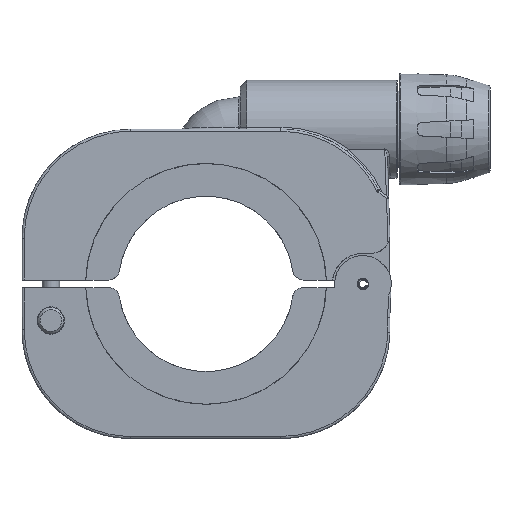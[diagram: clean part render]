
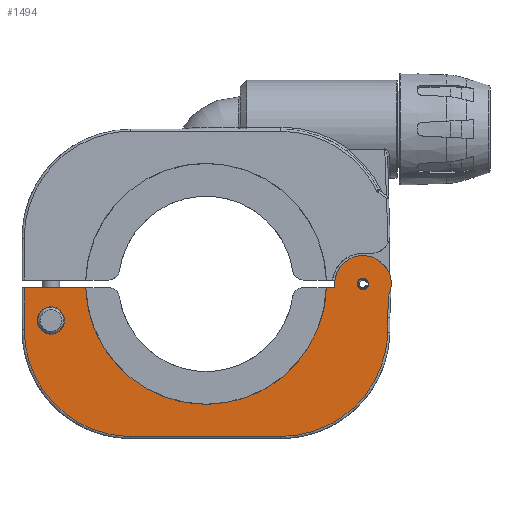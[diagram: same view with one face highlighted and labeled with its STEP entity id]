
A CAD part, left-side view. The second image highlights one B-rep face of the part: STEP entity #1494.
In plain terms, the highlighted planar face has unit normal (-1, 0, -0.018).
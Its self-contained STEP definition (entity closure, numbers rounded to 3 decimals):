
#1494 = ADVANCED_FACE( '', ( #3071, #3072, #3073 ), #3074, .T. );
#3071 = FACE_BOUND( '', #11637, .T. );
#3072 = FACE_OUTER_BOUND( '', #11638, .T. );
#3073 = FACE_BOUND( '', #11639, .T. );
#3074 = PLANE( '', #11640 );
#11637 = EDGE_LOOP( '', ( #16109 ) );
#11638 = EDGE_LOOP( '', ( #16110, #16111, #16112, #16113, #16114, #16115, #16116, #16117, #16118, #16119, #16120, #16121 ) );
#11639 = EDGE_LOOP( '', ( #16122 ) );
#11640 = AXIS2_PLACEMENT_3D( '', #16123, #16124, #16125 );
#16109 = ORIENTED_EDGE( '', *, *, #18188, .T. );
#16110 = ORIENTED_EDGE( '', *, *, #16817, .T. );
#16111 = ORIENTED_EDGE( '', *, *, #18132, .F. );
#16112 = ORIENTED_EDGE( '', *, *, #17888, .F. );
#16113 = ORIENTED_EDGE( '', *, *, #17370, .T. );
#16114 = ORIENTED_EDGE( '', *, *, #17057, .T. );
#16115 = ORIENTED_EDGE( '', *, *, #17646, .T. );
#16116 = ORIENTED_EDGE( '', *, *, #16868, .T. );
#16117 = ORIENTED_EDGE( '', *, *, #18218, .T. );
#16118 = ORIENTED_EDGE( '', *, *, #18112, .T. );
#16119 = ORIENTED_EDGE( '', *, *, #17694, .T. );
#16120 = ORIENTED_EDGE( '', *, *, #16552, .T. );
#16121 = ORIENTED_EDGE( '', *, *, #17428, .T. );
#16122 = ORIENTED_EDGE( '', *, *, #17368, .T. );
#16123 = CARTESIAN_POINT( '', ( -31.5, 0., 71. ) );
#16124 = DIRECTION( '', ( -1., 0., -0.017 ) );
#16125 = DIRECTION( '', ( -0.017, 0., 1. ) );
#16552 = EDGE_CURVE( '', #18420, #18425, #18427, .T. );
#16817 = EDGE_CURVE( '', #18891, #18888, #18892, .T. );
#16868 = EDGE_CURVE( '', #18977, #18975, #18978, .T. );
#17057 = EDGE_CURVE( '', #19298, #19299, #19300, .T. );
#17368 = EDGE_CURVE( '', #19809, #19809, #19810, .F. );
#17370 = EDGE_CURVE( '', #19812, #19298, #19813, .F. );
#17428 = EDGE_CURVE( '', #18425, #18891, #19897, .T. );
#17646 = EDGE_CURVE( '', #19299, #18977, #20213, .F. );
#17694 = EDGE_CURVE( '', #20277, #18420, #20279, .T. );
#17888 = EDGE_CURVE( '', #19812, #20518, #20519, .T. );
#18112 = EDGE_CURVE( '', #20780, #20277, #20782, .T. );
#18132 = EDGE_CURVE( '', #20518, #18888, #20803, .F. );
#18188 = EDGE_CURVE( '', #20862, #20862, #20863, .F. );
#18218 = EDGE_CURVE( '', #18975, #20780, #20896, .T. );
#18420 = VERTEX_POINT( '', #21675 );
#18425 = VERTEX_POINT( '', #21680 );
#18427 = ELLIPSE( '', #21726, 49.007, 49. );
#18888 = VERTEX_POINT( '', #23482 );
#18891 = VERTEX_POINT( '', #23500 );
#18892 = LINE( '', #23501, #23502 );
#18975 = VERTEX_POINT( '', #23628 );
#18977 = VERTEX_POINT( '', #23630 );
#18978 = LINE( '', #23631, #23632 );
#19298 = VERTEX_POINT( '', #24754 );
#19299 = VERTEX_POINT( '', #24755 );
#19300 = LINE( '', #24756, #24757 );
#19809 = VERTEX_POINT( '', #26653 );
#19810 = ELLIPSE( '', #26654, 6.251, 6.25 );
#19812 = VERTEX_POINT( '', #26656 );
#19813 = ( BOUNDED_CURVE(  )B_SPLINE_CURVE( 3, ( #26659, #26660, #26661, #26662 ), .UNSPECIFIED., .F., .F. )B_SPLINE_CURVE_WITH_KNOTS( ( 4, 4 ), ( 0.677, 0.677 ), .UNSPECIFIED. )CURVE(  )GEOMETRIC_REPRESENTATION_ITEM(  )RATIONAL_B_SPLINE_CURVE( ( 0.631, 0.631, 0.631, 0.631 ) )REPRESENTATION_ITEM( '' ) );
#19897 = LINE( '', #26800, #26801 );
#20213 = ELLIPSE( '', #27362, 55.258, 55.25 );
#20277 = VERTEX_POINT( '', #27888 );
#20279 = LINE( '', #27890, #27891 );
#20518 = VERTEX_POINT( '', #28872 );
#20519 = LINE( '', #28873, #28874 );
#20780 = VERTEX_POINT( '', #29751 );
#20782 = ELLIPSE( '', #29753, 49.007, 49. );
#20803 = ELLIPSE( '', #29786, 13.002, 13. );
#20862 = VERTEX_POINT( '', #29914 );
#20863 = ELLIPSE( '', #29915, 2.65, 2.65 );
#20896 = LINE( '', #30002, #30003 );
#21675 = CARTESIAN_POINT( '', ( -30.278, -34.399, 0.983 ) );
#21680 = CARTESIAN_POINT( '', ( -31.113, -83.385, 48.836 ) );
#21726 = AXIS2_PLACEMENT_3D( '', #30160, #30161, #30162 );
#23482 = CARTESIAN_POINT( '', ( -31.402, -83.757, 65.392 ) );
#23500 = CARTESIAN_POINT( '', ( -31.228, -83.385, 55.433 ) );
#23501 = CARTESIAN_POINT( '', ( -31.47, -83.902, 69.28 ) );
#23502 = VECTOR( '', #30452, 1000. );
#23628 = CARTESIAN_POINT( '', ( -31.469, 83.478, 69.243 ) );
#23630 = CARTESIAN_POINT( '', ( -31.469, 55.222, 69.243 ) );
#23631 = CARTESIAN_POINT( '', ( -31.469, 44.743, 69.243 ) );
#23632 = VECTOR( '', #30520, 1000. );
#24754 = CARTESIAN_POINT( '', ( -31.469, -57.584, 69.243 ) );
#24755 = CARTESIAN_POINT( '', ( -31.469, -55.222, 69.243 ) );
#24756 = CARTESIAN_POINT( '', ( -31.469, -84.385, 69.243 ) );
#24757 = VECTOR( '', #30690, 1000. );
#26653 = CARTESIAN_POINT( '', ( -31.097, 71.228, 47.929 ) );
#26654 = AXIS2_PLACEMENT_3D( '', #31089, #31090, #31091 );
#26656 = CARTESIAN_POINT( '', ( -31.469, -57.584, 69.243 ) );
#26659 = CARTESIAN_POINT( '', ( -31.469, -57.584, 69.243 ) );
#26660 = CARTESIAN_POINT( '', ( -31.469, -57.584, 69.243 ) );
#26661 = CARTESIAN_POINT( '', ( -31.469, -57.584, 69.243 ) );
#26662 = CARTESIAN_POINT( '', ( -31.469, -57.584, 69.243 ) );
#26800 = CARTESIAN_POINT( '', ( -31.228, -83.385, 55.432 ) );
#26801 = VECTOR( '', #31172, 1000. );
#27362 = AXIS2_PLACEMENT_3D( '', #31477, #31478, #31479 );
#27888 = CARTESIAN_POINT( '', ( -30.278, 34.478, 0.983 ) );
#27890 = CARTESIAN_POINT( '', ( -30.278, -34.399, 0.983 ) );
#27891 = VECTOR( '', #31523, 1000. );
#28872 = CARTESIAN_POINT( '', ( -31.469, -59.133, 69.243 ) );
#28873 = CARTESIAN_POINT( '', ( -31.469, -58.969, 69.243 ) );
#28874 = VECTOR( '', #31726, 1000. );
#29751 = CARTESIAN_POINT( '', ( -31.133, 83.478, 49.983 ) );
#29753 = AXIS2_PLACEMENT_3D( '', #31893, #31894, #31895 );
#29786 = AXIS2_PLACEMENT_3D( '', #31905, #31906, #31907 );
#29914 = CARTESIAN_POINT( '', ( -31.546, -72.017, 73.624 ) );
#29915 = AXIS2_PLACEMENT_3D( '', #31930, #31931, #31932 );
#30002 = CARTESIAN_POINT( '', ( -31.133, 83.478, 50. ) );
#30003 = VECTOR( '', #31943, 1000. );
#30160 = CARTESIAN_POINT( '', ( -31.133, -34.399, 49.983 ) );
#30161 = DIRECTION( '', ( -1., 0., -0.017 ) );
#30162 = DIRECTION( '', ( -0.017, 0., 1. ) );
#30452 = DIRECTION( '', ( -0.017, -0.037, 0.999 ) );
#30520 = DIRECTION( '', ( 0., 1., 0. ) );
#30690 = DIRECTION( '', ( 0., 1., 0. ) );
#31089 = CARTESIAN_POINT( '', ( -31.206, 71.228, 54.179 ) );
#31090 = DIRECTION( '', ( -1., 0., -0.017 ) );
#31091 = DIRECTION( '', ( 0.017, 0., -1. ) );
#31172 = DIRECTION( '', ( -0.017, 0., 1. ) );
#31477 = CARTESIAN_POINT( '', ( -31.5, 0., 71. ) );
#31478 = DIRECTION( '', ( -1., 0., -0.017 ) );
#31479 = DIRECTION( '', ( -0.017, 0., 1. ) );
#31523 = DIRECTION( '', ( 0., -1., 0. ) );
#31726 = DIRECTION( '', ( 0., -1., 0. ) );
#31893 = CARTESIAN_POINT( '', ( -31.133, 34.478, 49.983 ) );
#31894 = DIRECTION( '', ( -1., 0., -0.017 ) );
#31895 = DIRECTION( '', ( -0.017, 0., 1. ) );
#31905 = CARTESIAN_POINT( '', ( -31.5, -72.017, 70.974 ) );
#31906 = DIRECTION( '', ( -1., 0., -0.017 ) );
#31907 = DIRECTION( '', ( 0.017, 0., -1. ) );
#31930 = CARTESIAN_POINT( '', ( -31.5, -72.017, 70.974 ) );
#31931 = DIRECTION( '', ( -1., 0., -0.017 ) );
#31932 = DIRECTION( '', ( -0.017, 0., 1. ) );
#31943 = DIRECTION( '', ( 0.017, 0., -1. ) );
